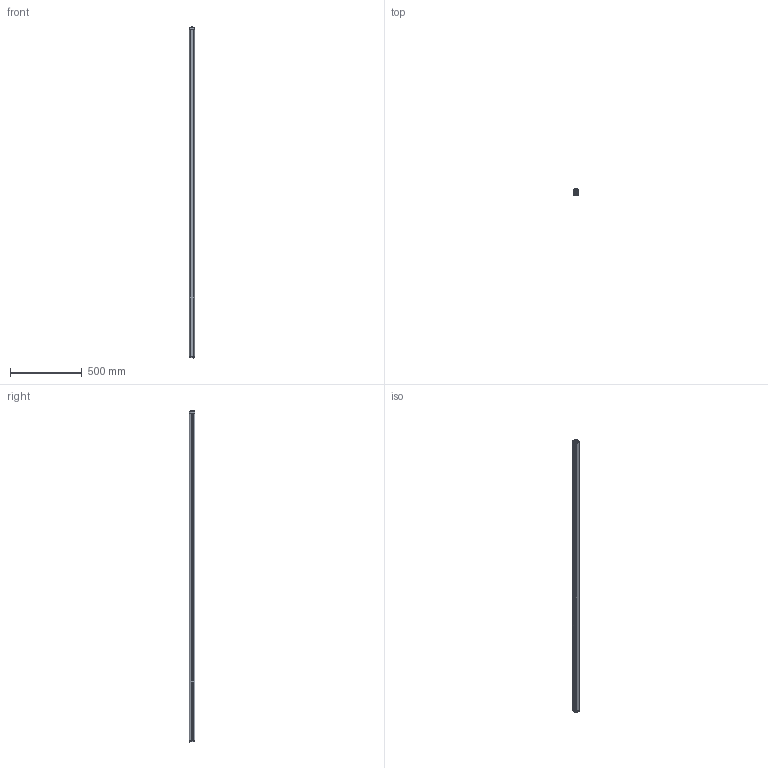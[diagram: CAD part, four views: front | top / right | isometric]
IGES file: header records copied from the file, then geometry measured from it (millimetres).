
Global section: file name: C:\Users\fguttadauro\Desktop\DSD-1026 DS2-05-07-225-JE _RX_IGS.igs; native system: NX V12.0; preprocessor: SIEMENS PLM Software NX 12.0; date: 20200721.165703; units: millimetre
Bounding box: 35 x 40.1 x 2314 mm (x, y, z)
Surface area: 447986.6 mm2 (no closed solid volume)
Topology: 0 solids, 0 shells, 1070 faces, 6398 edges, 6268 vertices
Faces by surface type: bspline 1070
